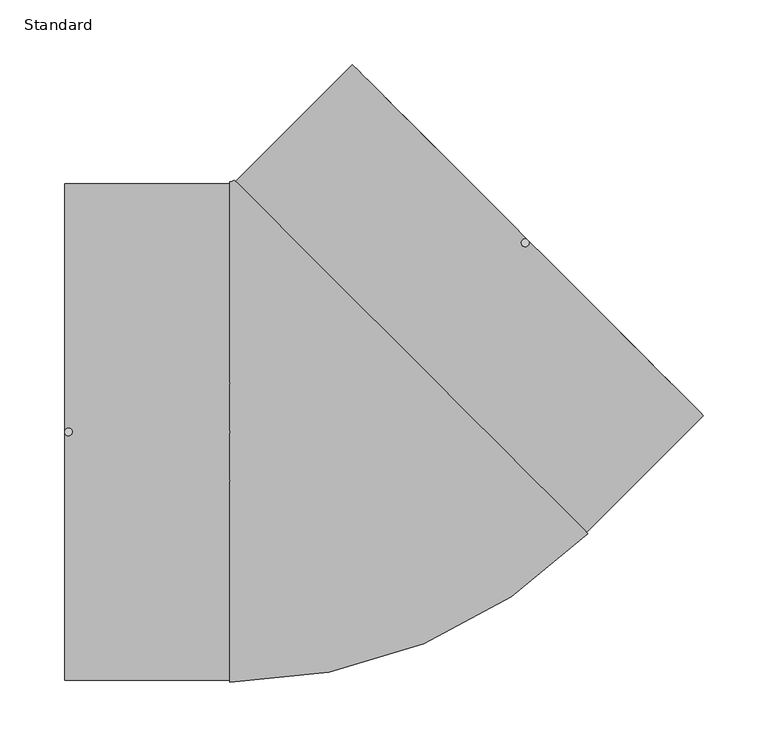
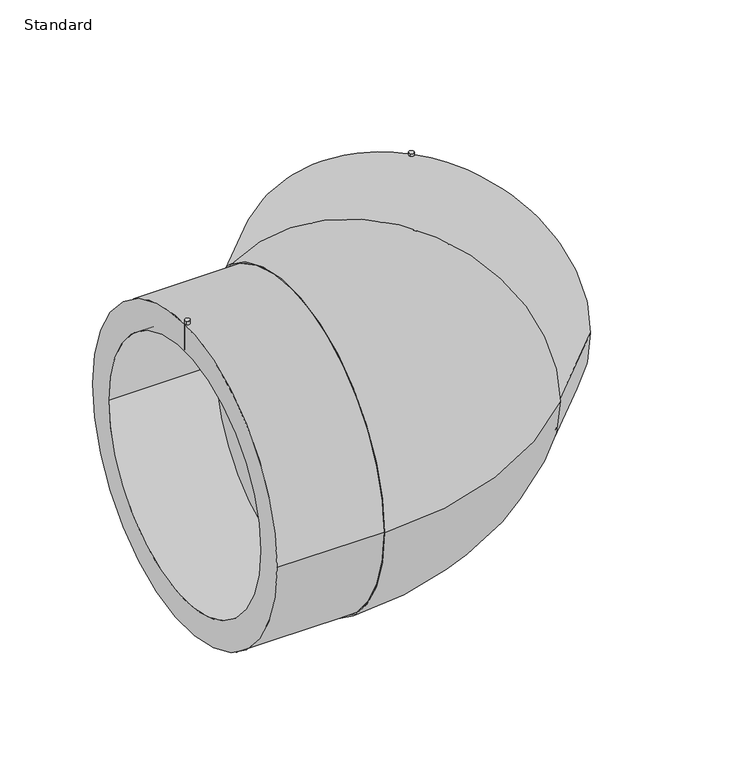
"""IFC4 building model written with IfcOpenShell, lengths in millimetres: pipe fitting geometry, EGB_VASEN_ PPR_Codo electrosoldable 90 WXRD200_Codo electrosoldable 45 WXRD220 : Standard."""

from ifc_helpers import new_model, si_unit, point, frame, frame_2d, origin, place, context, project, spatial, polyline, circle_curve, ellipse_curve, trimmed, segment, composite_curve, outline, extrude, source, transform, mapped, element, save
from ifc_brep_helpers import plane_surface, cylinder_surface, revolved_surface, advanced_brep


def standard_bc55f13c(model_context):
    return source(origin(), model_context, "Body", "SolidModel", [
        advanced_brep(
        [(-210.0, -192.0, 0.0), (-210.0, 192.0, 0.0), (-210.0, -157.5, 0.0), (-210.0, 157.5, 0.0), (-82.1503243, -192.0, 0.0), (-82.1503243, 192.0, 0.0), (-82.1503243, -157.5, 0.0), (-82.1503243, 157.5, 0.0), (-82.1503243, -193.5, 0.0), (-82.1503243, 193.5, 0.0), (194.9142136, -78.7361108, 0.0), (-78.7361108, 194.9142136, 0.0), (193.8535534, -77.6754506, 0.0), (-77.6754506, 193.8535534, 0.0), (169.4583694, -53.2802666, 0.0), (-53.2802666, 169.4583694, 0.0), (284.256926, 12.7279221, 0.0), (12.7279221, 284.256926, 0.0), (259.8617421, 37.123106, 0.0), (37.123106, 259.8617421, 0.0)],
        [
            (0, 1, circle_curve(frame((-210.0, 0.0, 0.0), z_axis=(-1.0, 0.0, 0.0), x_axis=(0.0, 1.0, 0.0)), 192.0)),
            (1, 0, circle_curve(frame((-210.0, 0.0, 0.0), z_axis=(-1.0, 0.0, 0.0), x_axis=(0.0, 1.0, 0.0)), 192.0)),
            (2, 3, circle_curve(frame((-210.0, 0.0, 0.0), z_axis=(1.0, 0.0, 0.0), x_axis=(0.0, 1.0, 0.0)), 157.5)),
            (3, 2, circle_curve(frame((-210.0, 0.0, 0.0), z_axis=(1.0, 0.0, 0.0), x_axis=(0.0, 1.0, 0.0)), 157.5)),
            (0, 4),
            (4, 5, circle_curve(frame((-82.1503243, 0.0, 0.0), z_axis=(-1.0, 0.0, 0.0), x_axis=(0.0, 1.0, 0.0)), 192.0)),
            (5, 1),
            (5, 4, circle_curve(frame((-82.1503243, 0.0, 0.0), z_axis=(-1.0, 0.0, 0.0), x_axis=(0.0, 1.0, 0.0)), 192.0)),
            (2, 6),
            (6, 7, circle_curve(frame((-82.1503243, 0.0, 0.0), z_axis=(1.0, 0.0, 0.0), x_axis=(0.0, 1.0, 0.0)), 157.5)),
            (7, 3),
            (7, 6, circle_curve(frame((-82.1503243, 0.0, 0.0), z_axis=(1.0, 0.0, 0.0), x_axis=(0.0, 1.0, 0.0)), 157.5)),
            (8, 9, circle_curve(frame((-82.1503243, 0.0, 0.0), z_axis=(-1.0, 0.0, 0.0), x_axis=(0.0, 1.0, 0.0)), 193.5)),
            (9, 8, circle_curve(frame((-82.1503243, 0.0, 0.0), z_axis=(-1.0, 0.0, 0.0), x_axis=(0.0, 1.0, 0.0)), 193.5)),
            (10, 11, circle_curve(frame((58.0890514, 58.0890514, 0.0), z_axis=(0.7071067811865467, 0.7071067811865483, 0.0), x_axis=(-0.7071067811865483, 0.7071067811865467, 0.0)), 193.5)),
            (11, 10, circle_curve(frame((58.0890514, 58.0890514, 0.0), z_axis=(0.7071067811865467, 0.7071067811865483, 0.0), x_axis=(-0.7071067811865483, 0.7071067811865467, 0.0)), 193.5)),
            (12, 13, circle_curve(frame((58.0890514, 58.0890514, 0.0), z_axis=(-0.7071067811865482, -0.7071067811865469, 0.0), x_axis=(-0.7071067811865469, 0.7071067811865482, 0.0)), 192.0)),
            (13, 12, circle_curve(frame((58.0890514, 58.0890514, 0.0), z_axis=(-0.7071067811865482, -0.7071067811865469, 0.0), x_axis=(-0.7071067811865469, 0.7071067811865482, 0.0)), 192.0)),
            (14, 15, circle_curve(frame((58.0890514, 58.0890514, 0.0), z_axis=(0.7071067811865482, 0.7071067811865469, 0.0), x_axis=(-0.7071067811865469, 0.7071067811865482, 0.0)), 157.5)),
            (15, 14, circle_curve(frame((58.0890514, 58.0890514, 0.0), z_axis=(0.7071067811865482, 0.7071067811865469, 0.0), x_axis=(-0.7071067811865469, 0.7071067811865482, 0.0)), 157.5)),
            (8, 10, circle_curve(frame((-82.1503243, 198.3284271, 0.0), z_axis=(0.0, 0.0, 1.0), x_axis=(0.0, -1.0, 0.0)), 391.8284271)),
            (11, 9, circle_curve(frame((-82.1503243, 198.3284271, 0.0), z_axis=(0.0, 0.0, -1.0), x_axis=(0.0, -1.0, 0.0)), 4.8284271)),
            (16, 17, circle_curve(frame((148.492424, 148.492424, 0.0), z_axis=(0.7071067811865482, 0.7071067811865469, 0.0), x_axis=(-0.7071067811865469, 0.7071067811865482, 0.0)), 192.0)),
            (17, 16, circle_curve(frame((148.492424, 148.492424, 0.0), z_axis=(0.7071067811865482, 0.7071067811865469, 0.0), x_axis=(-0.7071067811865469, 0.7071067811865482, 0.0)), 192.0)),
            (18, 19, circle_curve(frame((148.492424, 148.492424, 0.0), z_axis=(-0.7071067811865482, -0.7071067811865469, 0.0), x_axis=(-0.7071067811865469, 0.7071067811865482, 0.0)), 157.5)),
            (19, 18, circle_curve(frame((148.492424, 148.492424, 0.0), z_axis=(-0.7071067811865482, -0.7071067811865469, 0.0), x_axis=(-0.7071067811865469, 0.7071067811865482, 0.0)), 157.5)),
            (17, 13),
            (12, 16),
            (19, 15),
            (14, 18),
        ],
        [
            plane_surface(frame((-210.0, 0.0, 0.0), z_axis=(-1.0, 0.0, 0.0), x_axis=(0.0, 0.0, 1.0))),
            cylinder_surface(frame((-210.0, 0.0, 0.0), z_axis=(-1.0, 0.0, 0.0), x_axis=(0.0, 1.0, 0.0)), 192.0),
            revolved_surface(polyline([(-82.1503243, 157.5, 0.0), (-210.0, 157.5, 0.0)]), (-210.0, 0.0, 0.0), (1.0, 0.0, 0.0)),
            plane_surface(frame((-82.1503243, 0.0, 0.0), z_axis=(-1.0, 0.0, 0.0), x_axis=(0.0, 0.0, 1.0))),
            plane_surface(frame((58.0890514, 58.0890514, 0.0), z_axis=(0.7071067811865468, 0.7071067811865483, 0.0), x_axis=(0.0, 0.0, 1.0))),
            revolved_surface(trimmed(ellipse_curve(frame((-82.1503243, 0.0, 0.0), z_axis=(-1.0, 0.0, 0.0), x_axis=(0.0, 1.0, 0.0)), 193.5, 193.5), [point((-82.1503243, -193.5, 0.0))], [point((-82.1503243, 193.5, 0.0))], True, "CARTESIAN"), (-82.1503243, 198.3284271, 0.0), (0.0, 0.0, 1.0)),
            revolved_surface(trimmed(ellipse_curve(frame((-82.1503243, 0.0, 0.0), z_axis=(-1.0, 0.0, 0.0), x_axis=(0.0, 1.0, 0.0)), 193.5, 193.5), [point((-82.1503243, 193.5, 0.0))], [point((-82.1503243, -193.5, 0.0))], True, "CARTESIAN"), (-82.1503243, 198.3284271, 0.0), (0.0, 0.0, 1.0)),
            plane_surface(frame((148.492424, 148.492424, 0.0), z_axis=(0.7071067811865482, 0.7071067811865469, 0.0), x_axis=(0.0, 0.0, 1.0))),
            cylinder_surface(frame((58.0890514, 58.0890514, 0.0), z_axis=(-0.7071067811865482, -0.7071067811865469, 0.0), x_axis=(-0.7071067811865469, 0.7071067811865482, 0.0)), 192.0),
            revolved_surface(polyline([(37.12310601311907, 259.8617420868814, 0.0), (-53.28026663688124, 169.45836943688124, 0.0)]), (58.0890514, 58.0890514, 0.0), (0.7071067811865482, 0.7071067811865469, 0.0)),
        ],
        [
            (0, [[1, 2], [3, 4]]),
            (1, [[-1, 5, 6, 7]]),
            (1, [[-2, -7, 8, -5]]),
            (2, [[-3, 9, 10, 11]]),
            (2, [[-4, -11, 12, -9]]),
            (3, [[-10, -12]]),
            (3, [[13, 14], [-6, -8]]),
            (4, [[15, 16], [17, 18]]),
            (4, [[19, 20]]),
            (5, [[-13, 21, -16, 22]]),
            (6, [[-14, -22, -15, -21]]),
            (7, [[23, 24], [25, 26]]),
            (8, [[-24, 27, -17, 28]]),
            (8, [[-23, -28, -18, -27]]),
            (9, [[-26, 29, -19, 30]]),
            (9, [[-25, -30, -20, -29]]),
        ],
    ),
        extrude(outline(composite_curve([segment(trimmed(circle_curve(frame_2d((146.3711037, 146.3711037)), 3.0), [point((144.2497834, 144.2497834))], [point((148.492424, 148.492424))], False, "CARTESIAN"), True, "CONTINUOUS"), segment(trimmed(circle_curve(frame_2d((146.3711037, 146.3711037)), 3.0), [point((148.492424, 148.492424))], [point((144.2497834, 144.2497834))], False, "CARTESIAN"), True, "CONTINUOUS")], self_intersect=False)), frame((0.0, 0.0, 158.5), z_axis=(0.0, 0.0, 1.0), x_axis=(1.0, 0.0, 0.0)), (0.0, 0.0, 1.0), 38.0),
        extrude(outline(composite_curve([segment(trimmed(circle_curve(frame_2d((-207.0, 0.0)), 3.0), [point((-209.1213203, -2.1213203))], [point((-204.8786797, 2.1213203))], False, "CARTESIAN"), True, "CONTINUOUS"), segment(trimmed(circle_curve(frame_2d((-207.0, 0.0)), 3.0), [point((-204.8786797, 2.1213203))], [point((-209.1213203, -2.1213203))], False, "CARTESIAN"), True, "CONTINUOUS")], self_intersect=False)), frame((0.0, 0.0, 158.5), z_axis=(0.0, 0.0, 1.0), x_axis=(1.0, 0.0, 0.0)), (0.0, 0.0, 1.0), 38.0),
    ])


if __name__ == "__main__":
    model = new_model("IFC4")
    model_context = context("Model", 3, world=origin())
    ifc_project = project(units=[si_unit("LENGTHUNIT", "METRE", prefix="MILLI")], contexts=[model_context])
    site = spatial("IfcSite", under=ifc_project)
    building = spatial("IfcBuilding", under=site)
    placement = place(None, origin())
    standard_shape = standard_bc55f13c(model_context)
    element("IfcPipeFitting", 1, ObjectType="EGB_VASEN_ PPR_Codo electrosoldable 90 WXRD200_Codo electrosoldable 45 WXRD220 : Standard", at=placement, inside=building, context=model_context, shape_type="MappedRepresentation", body=[
        mapped(standard_shape, transform((0.0, 0.0, 0.0), x_axis=(1.0, 0.0, 0.0), y_axis=(0.0, 1.0, 0.0), z_axis=(0.0, 0.0, 1.0))),
    ])
    save(model, "model.ifc")
